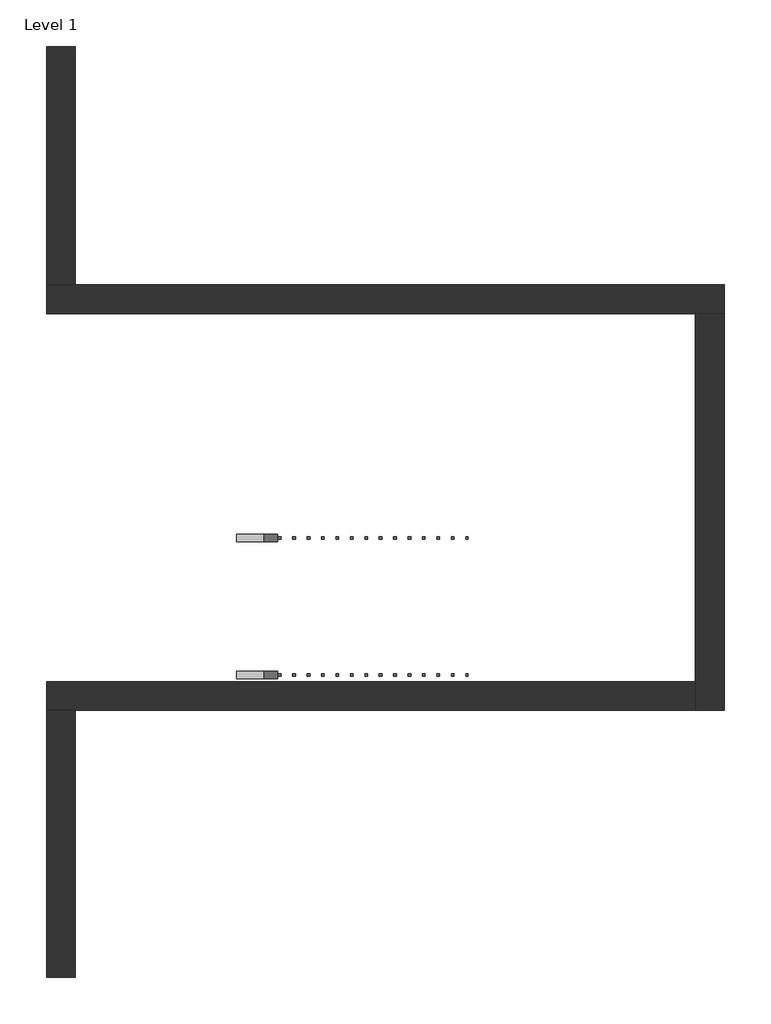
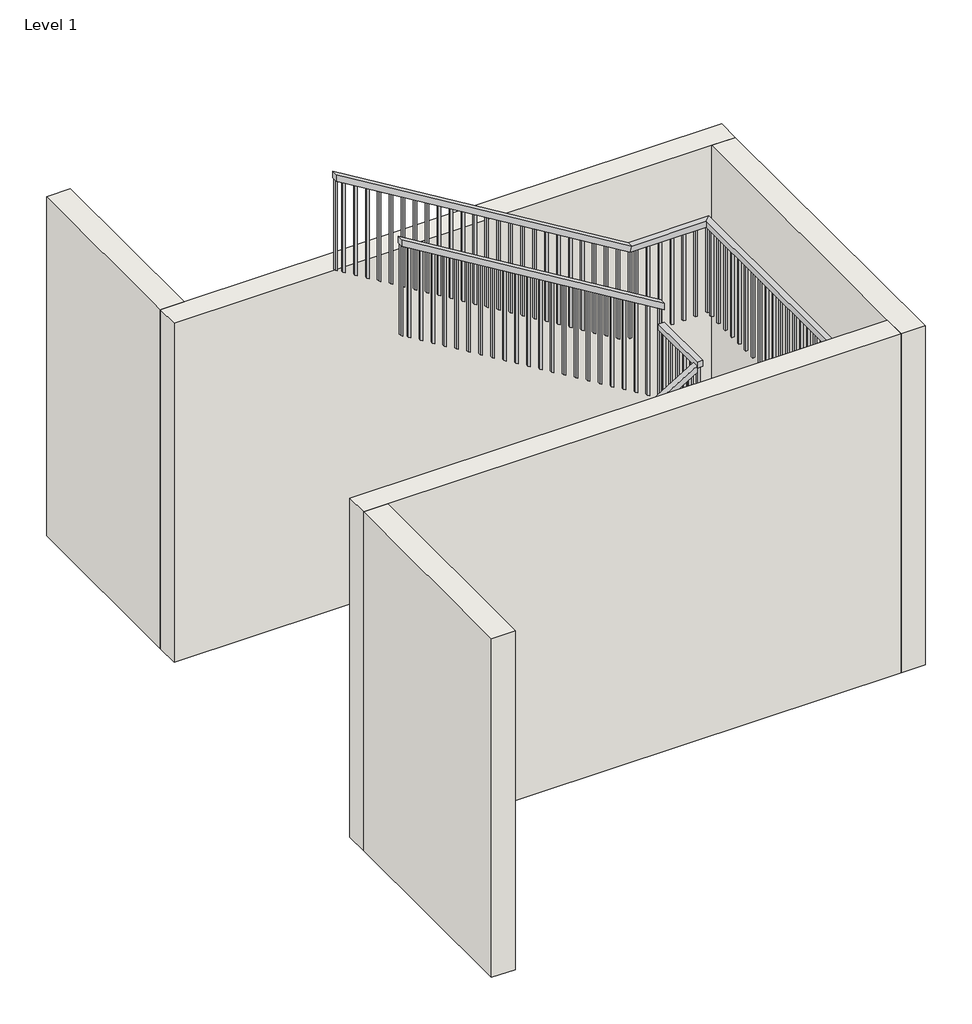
# One storey: 5 walls, 2 railings.
"""IFC4 building model written with IfcOpenShell, lengths in millimetres."""

from ifc_helpers import new_model, si_unit, origin, origin_with_axes, place, context, project, spatial, polyline, outline, extrude, faceted_brep, transform, mapped, element, save
from components import handrail_rectangular_694ac5ec, handrail_rectangular_d4d9ffba

model = new_model("IFC4")

# Units and contexts
model_context = context("Model", 3, world=origin())
ifc_project = project(units=[si_unit("LENGTHUNIT", "METRE", prefix="MILLI")], contexts=[model_context])

# Site, building, storey
site = spatial("IfcSite", under=ifc_project)
building = spatial("IfcBuilding", under=site)
storey = spatial("IfcBuildingStorey", under=building, Name="Level 1", Elevation=0.0)

# Railings
placement = place(None, origin())
handrail_rectangular_shape = handrail_rectangular_694ac5ec(model_context)
element("IfcRailing", 1, ObjectType="Handrail - Rectangular", at=placement, inside=storey, context=model_context, shape_type="MappedRepresentation", body=[
    mapped(handrail_rectangular_shape, transform((0.0, 0.0, 0.0), x_axis=(1.0, 0.0, 0.0), y_axis=(0.0, 1.0, 0.0), z_axis=(0.0, 0.0, 1.0))),
])
handrail_rectangular_2_shape = handrail_rectangular_d4d9ffba(model_context)
element("IfcRailing", 2, ObjectType="Handrail - Rectangular", at=placement, inside=storey, context=model_context, shape_type="MappedRepresentation", body=[
    mapped(handrail_rectangular_2_shape, transform((0.0, 0.0, 0.0), x_axis=(1.0, 0.0, 0.0), y_axis=(0.0, 1.0, 0.0), z_axis=(0.0, 0.0, 1.0))),
])

# Walls
element("IfcWall", 3, ObjectType="Generic - 8\"", at=placement, inside=storey, context=model_context, shape_type="Brep", body=[
    faceted_brep([(-4993.8972322, 3983.7543518, 0.0), (-421.8972322, 3983.7543518, 0.0), (-218.6972322, 3983.7543518, 0.0), (-218.6972322, 3983.7543518, 3048.0), (-421.8972322, 3983.7543518, 3048.0), (-4993.8972322, 3983.7543518, 3048.0), (-4993.8972322, 4186.9543518, 0.0), (-4993.8972322, 4186.9543518, 3048.0), (-4790.6972322, 4186.9543518, 3048.0), (-218.6972322, 4186.9543518, 3048.0), (-218.6972322, 4186.9543518, 0.0), (-4790.6972322, 4186.9543518, 0.0)], [[[0, 1, 2, 3, 4, 5]], [[6, 7, 8, 9, 10, 11]], [[2, 1, 0, 6, 11, 10]], [[5, 4, 3, 9, 8, 7]], [[3, 2, 10, 9]], [[0, 5, 7, 6]]]),
])
element("IfcWall", 4, ObjectType="Generic - 8\"", at=placement, inside=storey, context=model_context, shape_type="Brep", body=[
    faceted_brep([(-421.8972322, 3983.7543518, 0.0), (-421.8972322, 1392.9543518, 0.0), (-421.8972322, 1189.7543518, 0.0), (-421.8972322, 1189.7543518, 3048.0), (-421.8972322, 1392.9543518, 3048.0), (-421.8972322, 3983.7543518, 3048.0), (-218.6972322, 3983.7543518, 0.0), (-218.6972322, 3983.7543518, 3048.0), (-218.6972322, 1189.7543518, 3048.0), (-218.6972322, 1189.7543518, 0.0)], [[[0, 1, 2, 3, 4, 5]], [[6, 7, 8, 9]], [[2, 1, 0, 6, 9]], [[5, 4, 3, 8, 7]], [[3, 2, 9, 8]], [[0, 5, 7, 6]]]),
])
element("IfcWall", 5, ObjectType="Generic - 8\"", at=placement, inside=storey, context=model_context, shape_type="Brep", body=[
    faceted_brep([(-421.8972322, 1392.9543518, 0.0), (-4993.8972322, 1392.9543518, 0.0), (-4993.8972322, 1392.9543518, 3048.0), (-421.8972322, 1392.9543518, 3048.0), (-421.8972322, 1189.7543518, 0.0), (-421.8972322, 1189.7543518, 3048.0), (-4790.6972322, 1189.7543518, 3048.0), (-4993.8972322, 1189.7543518, 3048.0), (-4993.8972322, 1189.7543518, 0.0), (-4790.6972322, 1189.7543518, 0.0)], [[[0, 1, 2, 3]], [[4, 5, 6, 7, 8, 9]], [[1, 0, 4, 9, 8]], [[3, 2, 7, 6, 5]], [[2, 1, 8, 7]], [[0, 3, 5, 4]]]),
])
element("IfcWall", 6, ObjectType="Generic - 8\"", at=placement, inside=storey, context=model_context, shape_type="SweptSolid", body=[
    extrude(outline(polyline([(-4993.8972322, -689.8456482), (-4993.8972322, 1189.7543518), (-4790.6972322, 1189.7543518), (-4790.6972322, -689.8456482), (-4993.8972322, -689.8456482)])), origin_with_axes(), (0.0, 0.0, 1.0), 3048.0),
])
element("IfcWall", 7, ObjectType="Generic - 8\"", at=placement, inside=storey, context=model_context, shape_type="SweptSolid", body=[
    extrude(outline(polyline([(-4790.6972322, 5863.3543518), (-4790.6972322, 4186.9543518), (-4993.8972322, 4186.9543518), (-4993.8972322, 5863.3543518), (-4790.6972322, 5863.3543518)])), origin_with_axes(), (0.0, 0.0, 1.0), 3048.0),
])

save(model, "model.ifc")
